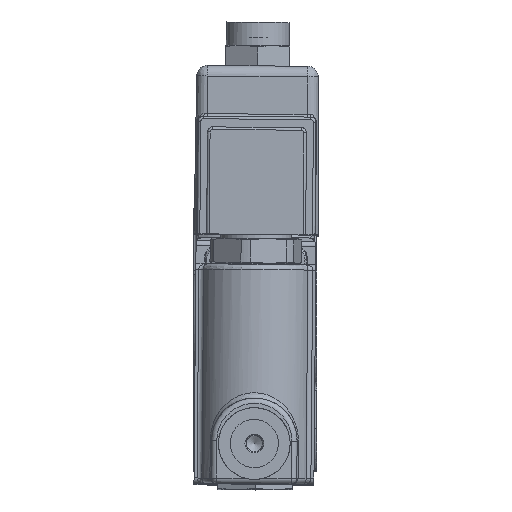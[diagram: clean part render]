
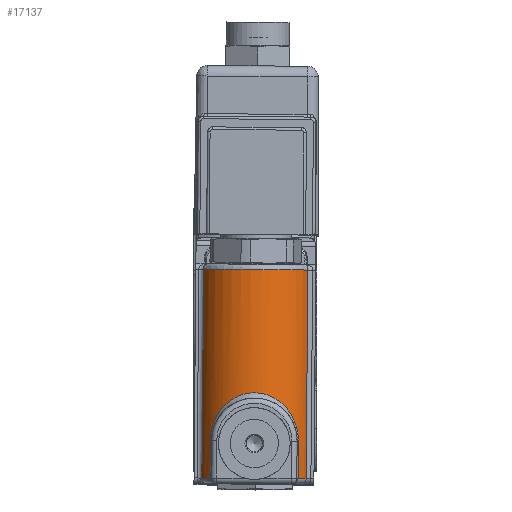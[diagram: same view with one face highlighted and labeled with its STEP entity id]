
A CAD part, top view. The second image highlights one B-rep face of the part: STEP entity #17137.
In plain terms, the highlighted cylindrical face has radius 17.069 mm (diameter 34.138 mm), a partial arc.
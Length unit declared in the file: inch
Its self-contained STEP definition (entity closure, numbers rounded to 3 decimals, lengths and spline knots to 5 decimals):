
#900=CYLINDRICAL_SURFACE($,#18728,0.672);
#1339=B_SPLINE_CURVE_WITH_KNOTS($,3,(#30217,#30218,#30219,#30220,#30221,
#30222,#30223,#30224,#30225,#30226,#30227,#30228,#30229,#30230),
 .UNSPECIFIED.,.F.,.F.,(4,1,1,1,1,1,1,1,1,1,1,4),(0.,0.33533,
0.67066,1.34131,2.01197,2.23552,2.68263,
3.35328,3.68861,4.02394,4.35927,4.6946),
 .UNSPECIFIED.);
#1944=FACE_OUTER_BOUND($,#3110,.T.);
#3110=EDGE_LOOP($,(#13128,#13129,#13130,#13131,#13132,#13133,#13134,#13135));
#4425=LINE($,#29931,#5377);
#4427=LINE($,#29990,#5379);
#4430=LINE($,#30129,#5382);
#4432=LINE($,#30236,#5384);
#5377=VECTOR($,#22301,2.439);
#5379=VECTOR($,#22315,2.439);
#5382=VECTOR($,#22326,0.438);
#5384=VECTOR($,#22334,0.438);
#6227=CIRCLE($,#18717,0.672);
#6234=CIRCLE($,#18729,0.672);
#6235=CIRCLE($,#18730,0.672);
#7570=VERTEX_POINT($,#29910);
#7571=VERTEX_POINT($,#29929);
#7572=VERTEX_POINT($,#29974);
#7573=VERTEX_POINT($,#29985);
#7575=VERTEX_POINT($,#30105);
#7577=VERTEX_POINT($,#30125);
#7579=VERTEX_POINT($,#30200);
#7581=VERTEX_POINT($,#30232);
#9540=EDGE_CURVE($,#7571,#7570,#4425,.T.);
#9542=EDGE_CURVE($,#7570,#7572,#6227,.T.);
#9547=EDGE_CURVE($,#7572,#7573,#4427,.T.);
#9556=EDGE_CURVE($,#7575,#7577,#4430,.T.);
#9559=EDGE_CURVE($,#7577,#7579,#1339,.T.);
#9562=EDGE_CURVE($,#7579,#7581,#4432,.T.);
#9565=EDGE_CURVE($,#7581,#7571,#6234,.T.);
#9566=EDGE_CURVE($,#7573,#7575,#6235,.T.);
#13128=ORIENTED_EDGE($,*,*,#9540,.F.);
#13129=ORIENTED_EDGE($,*,*,#9565,.F.);
#13130=ORIENTED_EDGE($,*,*,#9562,.F.);
#13131=ORIENTED_EDGE($,*,*,#9559,.F.);
#13132=ORIENTED_EDGE($,*,*,#9556,.F.);
#13133=ORIENTED_EDGE($,*,*,#9566,.F.);
#13134=ORIENTED_EDGE($,*,*,#9547,.F.);
#13135=ORIENTED_EDGE($,*,*,#9542,.F.);
#17137=ADVANCED_FACE($,(#1944),#900,.T.);
#18717=AXIS2_PLACEMENT_3D($,#29975,#22306,#22307);
#18728=AXIS2_PLACEMENT_3D($,#30285,#22335,#22336);
#18729=AXIS2_PLACEMENT_3D($,#30286,#22337,#22338);
#18730=AXIS2_PLACEMENT_3D($,#30287,#22339,#22340);
#22301=DIRECTION($,(0.009,1.,0.));
#22306=DIRECTION('center_axis',(0.009,1.,0.));
#22307=DIRECTION('ref_axis',(0.,0.,
1.));
#22315=DIRECTION($,(-0.009,-1.,0.));
#22326=DIRECTION($,(0.009,1.,0.));
#22334=DIRECTION($,(-0.009,-1.,0.));
#22335=DIRECTION('center_axis',(0.009,1.,0.));
#22336=DIRECTION('ref_axis',(-0.928,0.008,-0.372));
#22337=DIRECTION('center_axis',(-0.009,-1.,
0.));
#22338=DIRECTION('ref_axis',(-0.849,0.007,0.528));
#22339=DIRECTION('center_axis',(-0.009,-1.,
0.));
#22340=DIRECTION('ref_axis',(0.849,-0.007,0.528));
#29910=CARTESIAN_POINT('',(-0.60224,0.69328,2.69165));
#29929=CARTESIAN_POINT('',(-0.62353,-1.74563,2.69165));
#29931=CARTESIAN_POINT($,(-0.62407,-1.80762,2.69165));
#29974=CARTESIAN_POINT('',(0.61425,0.68267,2.69165));
#29975=CARTESIAN_POINT('Origin',(0.006,0.68797,2.406));
#29985=CARTESIAN_POINT('',(0.59297,-1.75624,2.69165));
#29990=CARTESIAN_POINT($,(0.59242,-1.81824,2.69165));
#30105=CARTESIAN_POINT('',(0.49923,-1.75542,2.83825));
#30125=CARTESIAN_POINT('',(0.50305,-1.31744,2.83825));
#30129=CARTESIAN_POINT($,(0.49869,-1.81742,2.83825));
#30200=CARTESIAN_POINT('',(-0.52597,-1.30846,2.83825));
#30217=CARTESIAN_POINT('Ctrl Pts',(0.50305,-1.31744,
2.83825));
#30218=CARTESIAN_POINT('Ctrl Pts',(0.50344,-1.27344,
2.83825));
#30219=CARTESIAN_POINT('Ctrl Pts',(0.49442,-1.18473,
2.85031));
#30220=CARTESIAN_POINT('Ctrl Pts',(0.4428,-1.02766,
2.90687));
#30221=CARTESIAN_POINT('Ctrl Pts',(0.32956,-0.86835,
2.99914));
#30222=CARTESIAN_POINT('Ctrl Pts',(0.16708,-0.77505,
3.06221));
#30223=CARTESIAN_POINT('Ctrl Pts',(0.00747,-0.74581,
3.08171));
#30224=CARTESIAN_POINT('Ctrl Pts',(-0.1566,-0.75882,
3.07152));
#30225=CARTESIAN_POINT('Ctrl Pts',(-0.30996,-0.84316,
3.01239));
#30226=CARTESIAN_POINT('Ctrl Pts',(-0.41382,-0.95662,
2.94413));
#30227=CARTESIAN_POINT('Ctrl Pts',(-0.47463,-1.05885,
2.89255));
#30228=CARTESIAN_POINT('Ctrl Pts',(-0.51485,-1.17581,
2.85042));
#30229=CARTESIAN_POINT('Ctrl Pts',(-0.52558,-1.26446,
2.83825));
#30230=CARTESIAN_POINT('Ctrl Pts',(-0.52597,-1.30846,
2.83825));
#30232=CARTESIAN_POINT('',(-0.52979,-1.74644,2.83825));
#30236=CARTESIAN_POINT($,(-0.53033,-1.80844,2.83825));
#30285=CARTESIAN_POINT('Origin',(-0.01582,-1.81293,
2.406));
#30286=CARTESIAN_POINT('Origin',(-0.01528,-1.75093,
2.406));
#30287=CARTESIAN_POINT('Origin',(-0.01528,-1.75093,
2.406));
